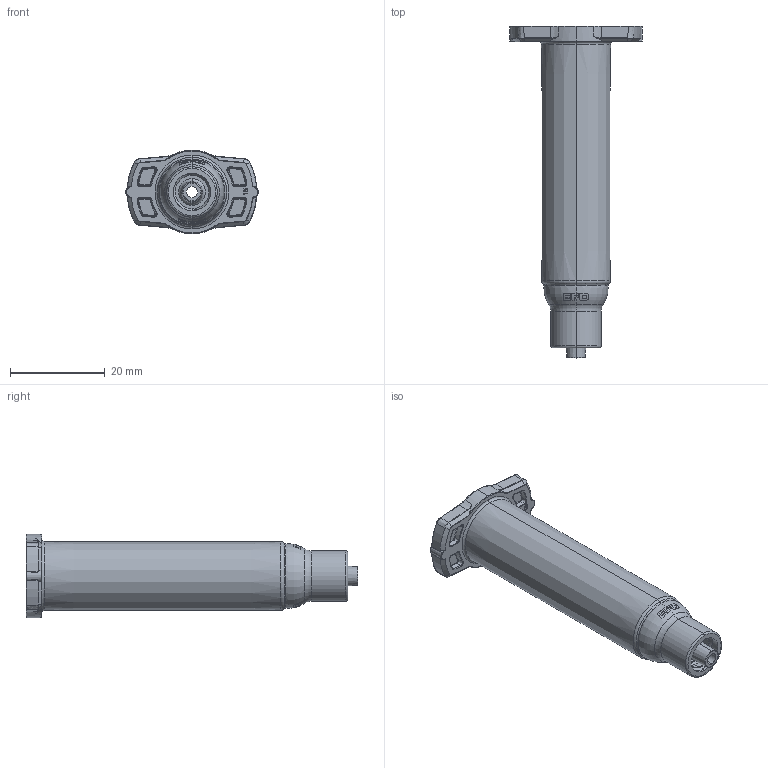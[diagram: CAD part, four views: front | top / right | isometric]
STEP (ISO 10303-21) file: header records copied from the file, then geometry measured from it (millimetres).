
FILE_DESCRIPTION (( 'STEP AP214' ), '1' );
FILE_NAME ('NORDSONEFD-7012012 BARREL O 5CC BK.STEP', '2018-12-29T02:30:17', ( '' ), ( '' ), 'SwSTEP 2.0', 'SolidWorks 2018', '' );
FILE_SCHEMA (( 'AUTOMOTIVE_DESIGN' ));
Length unit declared in the file: inch
Products named in the file (1): NORDSONEFD-7012012 BARREL O 5CC BK
Bounding box: 28.08 x 70.1 x 17.65 mm (x, y, z)
Volume: 3543.8 mm3; surface area: 6426.1 mm2
Topology: 1 solids, 1 shells, 464 faces, 1182 edges, 734 vertices
Faces by surface type: bspline 193, plane 110, torus 81, cylinder 49, cone 31
Entity records: 19497 total; most frequent: CARTESIAN_POINT 9923, ORIENTED_EDGE 2364, DIRECTION 1422, EDGE_CURVE 1182, VERTEX_POINT 734, B_SPLINE_CURVE_WITH_KNOTS 562, AXIS2_PLACEMENT_3D 556, EDGE_LOOP 480
